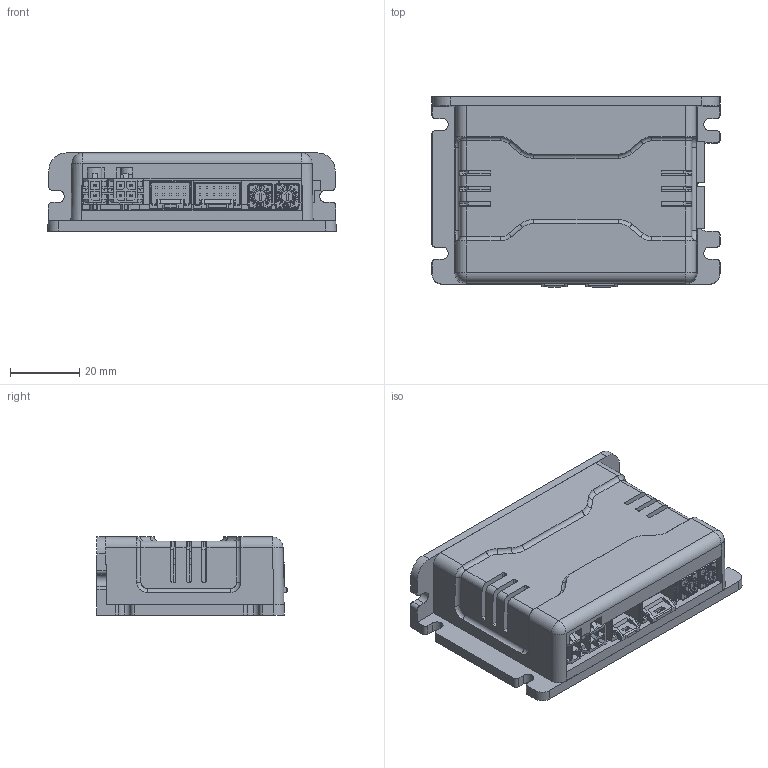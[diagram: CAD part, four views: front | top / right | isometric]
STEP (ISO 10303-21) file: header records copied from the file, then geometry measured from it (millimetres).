
FILE_DESCRIPTION (( 'STEP AP203' ), '1' );
FILE_NAME ('P11H-DR-000-01-R00.STEP', '2020-04-02T01:27:12', ( '' ), ( '' ), 'SwSTEP 2.0', 'SolidWorks 2013', '' );
FILE_SCHEMA (( 'CONFIG_CONTROL_DESIGN' ));
Length unit declared in the file: millimetre
Products named in the file (14): S05B-PASK-2_1; 5018761240_1; Ezi-SERVO MINI PCB1; 430450200; Ezi-SERVO MINI PCB2; 430450400; 5018761040; M11H-DR-000-02-R00; _SA-7070A_body; M11H-DR-000-01-R00; _Without knob (Minus slot); P11H-DR-000-01-R00; SA-7070TA; countersunk flat cross head screw_ks_KS 1023 FC- M3 x 14-N
Assembly tree (16 placements, depth 3):
  P11H-DR-000-01-R00
    Ezi-SERVO MINI PCB1
    Ezi-SERVO MINI PCB2
    5018761040
    SA-7070TA  x2
      _SA-7070A_body
      _Without knob (Minus slot)
    countersunk flat cross head screw_ks_KS 1023 FC- M3 x 14-N  x2
    S05B-PASK-2_1  x2
    5018761240_1
    430450200
    430450400
    M11H-DR-000-02-R00
    M11H-DR-000-01-R00
Bounding box: 82.99 x 54.8 x 22.5 mm (x, y, z)
Volume: 42601.1 mm3; surface area: 43157.5 mm2
Topology: 16 solids, 16 shells, 4647 faces, 13109 edges, 8630 vertices
Faces by surface type: plane 4042, cylinder 505, cone 40, bspline 34, torus 22, sphere 4
Entity records: 103152 total; most frequent: CARTESIAN_POINT 21263, ORIENTED_EDGE 17494, DIRECTION 15302, EDGE_CURVE 8747, VECTOR 7790, LINE 7790, VERTEX_POINT 5741, AXIS2_PLACEMENT_3D 3756
